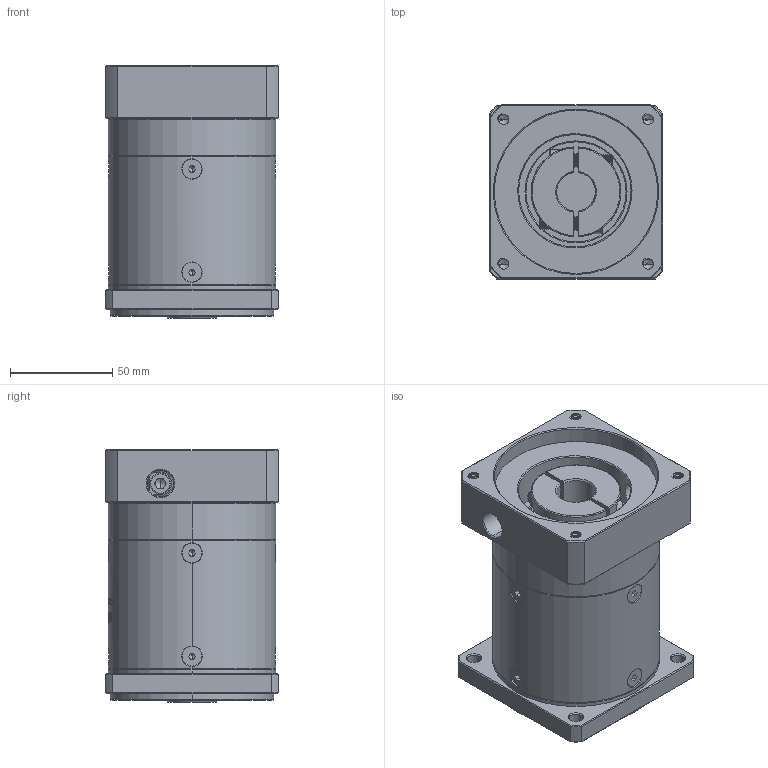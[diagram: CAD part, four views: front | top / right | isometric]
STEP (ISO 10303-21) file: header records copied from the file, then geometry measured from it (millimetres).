
FILE_DESCRIPTION (( 'STEP AP214' ), '1' );
FILE_NAME ('ZF80-K15-L2-19-80-100-M6.step', '2022-09-16T05:26:47', ( '' ), ( 'Microsoft' ), 'SwSTEP 2.0', 'SolidWorks 2016', '' );
FILE_SCHEMA (( 'AUTOMOTIVE_DESIGN' ));
Length unit declared in the file: millimetre
Products named in the file (1): ZF80-K15-L2-19-80-100-M6
Bounding box: 85 x 85 x 123.5 mm (x, y, z)
Volume: 621280.4 mm3; surface area: 92346.3 mm2
Topology: 13 solids, 13 shells, 1930 faces, 4998 edges, 3161 vertices
Faces by surface type: plane 889, cylinder 381, cone 333, bspline 310, torus 17
Entity records: 101556 total; most frequent: CARTESIAN_POINT 36633, ORIENTED_EDGE 9940, DIRECTION 7877, EDGE_CURVE 4970, VERTEX_POINT 3161, LINE 2717, VECTOR 2717, AXIS2_PLACEMENT_3D 2580
